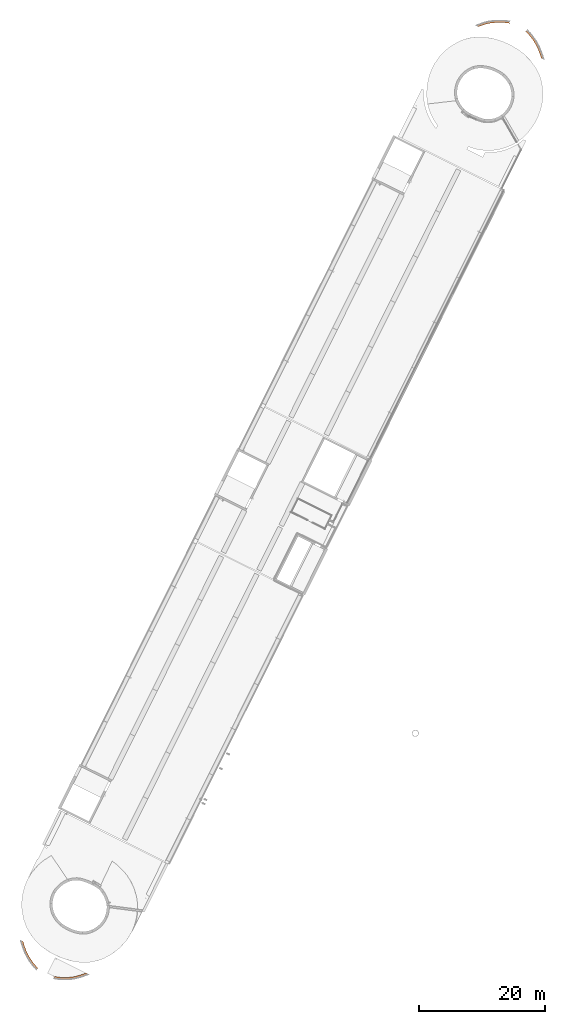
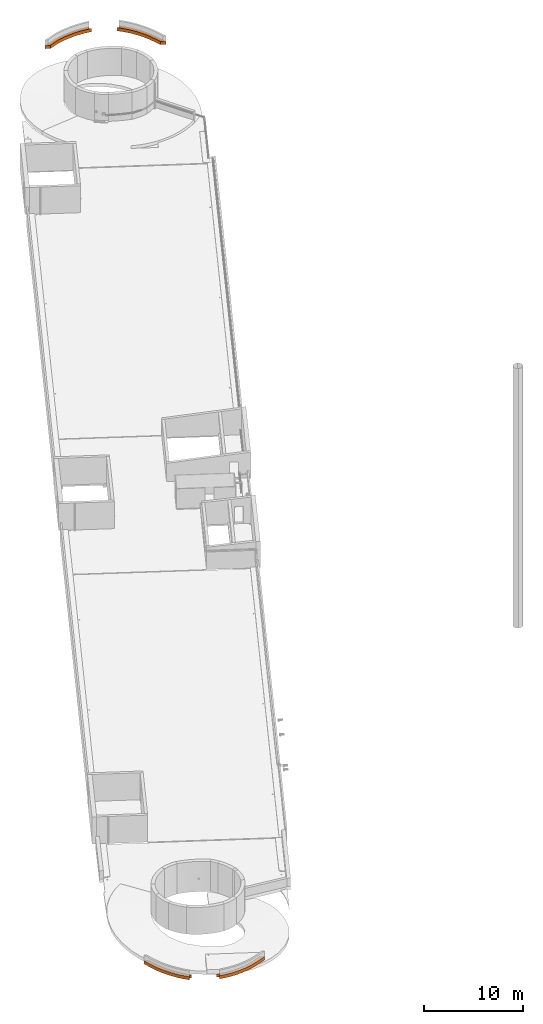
# One storey, part 34 of 34: 4 proxies.
"""IFC2X3 building model written with IfcOpenShell, lengths in metres."""

from ifc_helpers import new_model, entity, si_unit, converted_unit, derived_unit, direction, frame, frame_2d, origin, place, context, subcontext, project, spatial, polyline, circle_curve, parameter, trimmed, segment, composite_curve, outline, extrude, source, transform, mapped, material, element, save


model = new_model("IFC2X3")

# Units and contexts
model_context = context("Model", 3, precision=1e-05, world=origin(), true_north=direction((0.894925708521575, 0.446215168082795)))
context_of_model = context(None, 3, precision=1e-05, world=origin(), true_north=direction((0.894925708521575, 0.446215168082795)))
body_context = subcontext(model_context, "Body", "Model", "MODEL_VIEW")
ifc_project = project(units=[si_unit("LENGTHUNIT", "METRE"), si_unit("AREAUNIT", "SQUARE_METRE"), si_unit("VOLUMEUNIT", "CUBIC_METRE"), converted_unit("PLANEANGLEUNIT", "DEGREE", entity("IfcRatioMeasure", 0.0174532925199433), si_unit("PLANEANGLEUNIT", "RADIAN"), dimensions=[0, 0, 0, 0, 0, 0, 0]), si_unit("MASSUNIT", "GRAM", prefix="KILO"), si_unit("TIMEUNIT", "SECOND"), si_unit("FREQUENCYUNIT", "HERTZ"), si_unit("THERMODYNAMICTEMPERATUREUNIT", "DEGREE_CELSIUS"), derived_unit("THERMALTRANSMITTANCEUNIT", [(si_unit("MASSUNIT", "GRAM", prefix="KILO"), 1), (si_unit("THERMODYNAMICTEMPERATUREUNIT", "KELVIN"), -1), (si_unit("TIMEUNIT", "SECOND"), -3)]), derived_unit("VOLUMETRICFLOWRATEUNIT", [(si_unit("LENGTHUNIT", "METRE"), 3), (si_unit("TIMEUNIT", "SECOND"), -1)]), si_unit("ELECTRICCURRENTUNIT", "AMPERE"), si_unit("ELECTRICVOLTAGEUNIT", "VOLT"), si_unit("POWERUNIT", "WATT"), si_unit("FORCEUNIT", "NEWTON", prefix="KILO"), si_unit("ILLUMINANCEUNIT", "LUX"), si_unit("LUMINOUSFLUXUNIT", "LUMEN"), si_unit("LUMINOUSINTENSITYUNIT", "CANDELA"), si_unit("PRESSUREUNIT", "PASCAL")], contexts=[model_context, context_of_model])

# Site, building, storey
site_placement = place(None, frame((218.228324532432, 584.720189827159, 0.0), z_axis=(0.0, 0.0, 1.0), x_axis=(0.446215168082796, 0.894925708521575, 0.0)))
site = spatial("IfcSite", under=ifc_project, at=site_placement, Name="Default", CompositionType="ELEMENT")
building_placement = place(site_placement, origin())
building = spatial("IfcBuilding", under=site, at=building_placement, CompositionType="ELEMENT")
storey_placement = place(building_placement, frame((0.0, 0.0, 8.61)))
storey = spatial("IfcBuildingStorey", under=building, at=storey_placement, Name="2 - Piano Secondo", CompositionType="ELEMENT", Elevation=8.61)

# Proxies
ifc_material = material(Name="Calcestruzzo, gettato in opera")
shared_shape_1 = source(origin(), body_context, "Body", "SweptSolid", [
    extrude(outline(composite_curve([segment(trimmed(circle_curve(frame_2d((6.24814842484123, 4.14028738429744), x_axis=(1.0, 0.0)), 8.0724142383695), [parameter(193.491985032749)], [parameter(223.558768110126)], True, "PARAMETER"), True, "CONTINUOUS"), segment(trimmed(circle_curve(frame_2d((12.7980011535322, 10.2117964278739), x_axis=(1.0, 0.0)), 17.0031286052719), [parameter(223.175749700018)], [parameter(228.396997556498)], True, "PARAMETER"), True, "CONTINUOUS"), segment(polyline([(1.50851209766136, -2.50251909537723), (1.50851209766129, -1.96241058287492)]), True, "CONTINUOUS"), segment(trimmed(circle_curve(frame_2d((12.7980011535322, 10.2117964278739), x_axis=(1.0, 0.0)), 16.6031286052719), [parameter(223.17110471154)], [parameter(227.159361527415)], True, "PARAMETER"), False, "CONTINUOUS"), segment(trimmed(circle_curve(frame_2d((6.24814842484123, 4.14028738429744), x_axis=(1.0, 0.0)), 7.6724142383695), [parameter(192.182435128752)], [parameter(223.568685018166)], True, "PARAMETER"), False, "CONTINUOUS"), segment(polyline([(-1.25148790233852, 2.52121505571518), (-1.25148790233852, 2.25691775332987)]), True, "CONTINUOUS"), segment(polyline([(-1.25148790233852, 2.25691775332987), (-1.60148790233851, 2.25691775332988)]), True, "CONTINUOUS")], self_intersect=False)), frame((1.60308317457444, 2.50411436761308, 0.0)), (0.0, 0.0, 1.0), 0.399999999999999),
])
proxy_1_placement = place(storey_placement, frame((-85.0515750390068, -9.7621111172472, -0.0600000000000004)))
element("IfcBuildingElementProxy", 1, at=proxy_1_placement, inside=storey, material=ifc_material, Name="Trave curva1:Trave curva", ObjectType="Trave curva", CompositionType="ELEMENT", context=body_context, shape_type="MappedRepresentation", body=[
    mapped(shared_shape_1, transform((0.0, 0.0, 0.0), scale=1.0)),
])
shared_shape_2 = source(origin(), body_context, "Body", "SweptSolid", [
    extrude(outline(composite_curve([segment(trimmed(circle_curve(frame_2d((21.6741401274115, -19.3275145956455), x_axis=(1.0, 0.0)), 29.6228237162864), [parameter(132.845537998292)], [parameter(136.059357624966)], True, "PARAMETER"), True, "CONTINUOUS"), segment(trimmed(circle_curve(frame_2d((7.27174286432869, -5.02614607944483), x_axis=(1.0, 0.0)), 9.33329107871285), [parameter(137.924812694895)], [parameter(161.516654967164)], True, "PARAMETER"), True, "CONTINUOUS"), segment(polyline([(-1.58009833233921, -2.06722232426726), (-1.23009833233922, -2.06722232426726)]), True, "CONTINUOUS"), segment(polyline([(-1.23009833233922, -2.06722232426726), (-1.23009833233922, -2.28344927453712)]), True, "CONTINUOUS"), segment(trimmed(circle_curve(frame_2d((7.27174286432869, -5.02614607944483), x_axis=(1.0, 0.0)), 8.93329107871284), [parameter(137.966265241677)], [parameter(162.120281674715)], True, "PARAMETER"), False, "CONTINUOUS"), segment(trimmed(circle_curve(frame_2d((21.6741401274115, -19.3275145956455), x_axis=(1.0, 0.0)), 29.2228237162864), [parameter(133.577283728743)], [parameter(136.046492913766)], True, "PARAMETER"), False, "CONTINUOUS"), segment(polyline([(1.52990166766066, 1.84282037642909), (1.52990166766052, 2.39163229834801)]), True, "CONTINUOUS")], self_intersect=False)), frame((1.5816936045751, 2.28504454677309, 0.0)), (0.0, 0.0, 1.0), 0.399999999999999),
])
proxy_2_placement = place(storey_placement, frame((-85.0515750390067, -2.18890121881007, -0.0600000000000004)))
element("IfcBuildingElementProxy", 2, at=proxy_2_placement, inside=storey, material=ifc_material, Name="Telaio strutturale 2:Telaio strutturale 1", ObjectType="Telaio strutturale 1", CompositionType="ELEMENT", context=body_context, shape_type="MappedRepresentation", body=[
    mapped(shared_shape_2, transform((0.0, 0.0, 0.0), scale=1.0)),
])
shared_shape_3 = source(origin(), body_context, "Body", "SweptSolid", [
    extrude(outline(composite_curve([segment(polyline([(0.113642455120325, -0.417005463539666), (0.668929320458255, -0.417005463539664)]), True, "CONTINUOUS"), segment(polyline([(0.668929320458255, -0.417005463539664), (1.22410298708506, -0.405793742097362)]), True, "CONTINUOUS"), segment(polyline([(1.22410298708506, -0.405793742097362), (1.77893707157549, -0.383374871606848)]), True, "CONTINUOUS"), segment(polyline([(1.77893707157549, -0.383374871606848), (1.77903174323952, -0.383370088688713)]), True, "CONTINUOUS"), segment(polyline([(1.77903174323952, -0.383370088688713), (1.77912640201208, -0.383365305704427)]), True, "CONTINUOUS"), segment(polyline([(1.77912640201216, -0.383365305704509), (1.77892653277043, -0.383165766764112)]), True, "CONTINUOUS"), segment(polyline([(1.77892653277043, -0.383165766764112), (1.39494185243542, 0.000184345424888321)]), True, "CONTINUOUS"), segment(trimmed(circle_curve(frame_2d((0.391285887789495, 27.0820789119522), x_axis=(-0.706521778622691, -0.707691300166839)), 27.1004859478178), [parameter(44.4081458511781)], [parameter(47.0750300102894)], True, "PARAMETER"), False, "CONTINUOUS"), segment(trimmed(circle_curve(frame_2d((1.00110039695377, 9.42667667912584), x_axis=(-0.706521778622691, -0.707691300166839)), 9.48360560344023), [parameter(16.0751785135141)], [parameter(39.7051865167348)], True, "PARAMETER"), False, "CONTINUOUS"), segment(polyline([(-3.57888954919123, 1.12231232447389), (-3.41332224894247, 0.957018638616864)]), True, "CONTINUOUS"), segment(polyline([(-3.41332224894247, 0.957018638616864), (-3.65918510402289, 0.710748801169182)]), True, "CONTINUOUS"), segment(trimmed(circle_curve(frame_2d((1.00110039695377, 9.42667667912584), x_axis=(-0.706521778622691, -0.707691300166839)), 9.88360560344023), [parameter(16.8198211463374)], [parameter(39.8010393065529)], True, "PARAMETER"), True, "CONTINUOUS")], self_intersect=False)), frame((0.987282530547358, 3.32728237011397, 0.0), z_axis=(0.0, 0.0, 1.0), x_axis=(-0.706521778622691, 0.707691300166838, 0.0)), (0.0, 0.0, 1.0), 0.399999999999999),
])
proxy_3_placement = place(storey_placement, frame((80.2474572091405, -2.24662839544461, -0.0600000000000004)))
element("IfcBuildingElementProxy", 3, at=proxy_3_placement, inside=storey, material=ifc_material, Name="Telaio strutturale 13:Telaio strutturale 11", ObjectType="Telaio strutturale 11", CompositionType="ELEMENT", context=body_context, shape_type="MappedRepresentation", body=[
    mapped(shared_shape_3, transform((0.0, 0.0, 0.0), scale=1.0)),
])
shared_shape_4 = source(origin(), body_context, "Body", "SweptSolid", [
    extrude(outline(composite_curve([segment(trimmed(circle_curve(frame_2d((-6.97788046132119, 4.83811708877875), x_axis=(1.0, 0.0)), 9.01613750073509), [parameter(315.389318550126)], [parameter(343.07982372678)], True, "PARAMETER"), True, "CONTINUOUS"), segment(polyline([(1.64795887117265, 2.21406845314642), (1.29996838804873, 2.21406845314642)]), True, "CONTINUOUS"), segment(polyline([(1.29996838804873, 2.21406845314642), (1.29996838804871, 2.44750129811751)]), True, "CONTINUOUS"), segment(trimmed(circle_curve(frame_2d((-6.97788046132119, 4.83811708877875), x_axis=(1.0, 0.0)), 8.61613750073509), [parameter(315.347649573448)], [parameter(343.891454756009)], True, "PARAMETER"), False, "CONTINUOUS"), segment(trimmed(circle_curve(frame_2d((-13.1473589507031, 10.1652479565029), x_axis=(1.0, 0.0)), 16.7578390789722), [parameter(314.411877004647)], [parameter(317.215781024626)], True, "PARAMETER"), False, "CONTINUOUS"), segment(polyline([(-1.42003161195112, -1.80533950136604), (-1.42003161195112, -2.35917759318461)]), True, "CONTINUOUS"), segment(trimmed(circle_curve(frame_2d((-13.1473589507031, 10.1652479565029), x_axis=(1.0, 0.0)), 17.1578390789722), [parameter(313.117499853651)], [parameter(317.194121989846)], True, "PARAMETER"), True, "CONTINUOUS")], self_intersect=False)), frame((1.42162688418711, 2.3607728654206, 0.0)), (0.0, 0.0, 1.0), 0.399999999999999),
])
proxy_4_placement = place(storey_placement, frame((80.2474572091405, -9.64592031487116, -0.0600000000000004)))
element("IfcBuildingElementProxy", 4, at=proxy_4_placement, inside=storey, material=ifc_material, Name="Telaio strutturale 14:Telaio strutturale 12", ObjectType="Telaio strutturale 12", CompositionType="ELEMENT", context=body_context, shape_type="MappedRepresentation", body=[
    mapped(shared_shape_4, transform((0.0, 0.0, 0.0), scale=1.0)),
])

save(model, "model.ifc")
